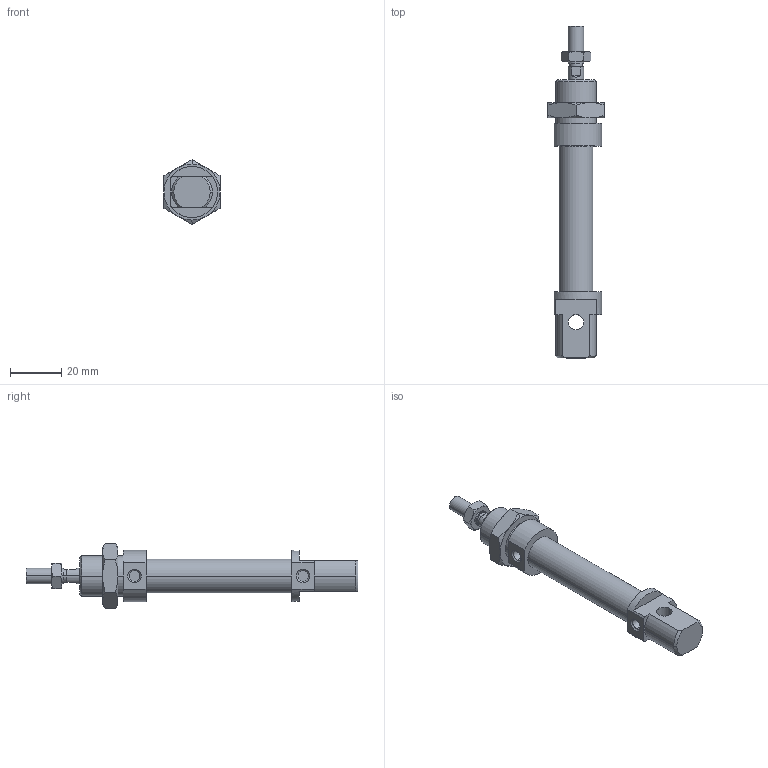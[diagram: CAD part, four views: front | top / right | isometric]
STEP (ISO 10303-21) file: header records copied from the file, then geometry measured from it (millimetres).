
FILE_DESCRIPTION((''),'2;1');
FILE_NAME('I:\DOC-EDP\Lib-3d\1200\CILINDRI\1280\1280_12_0025.stp','2003-04-07T14:48:27',('maffial1'),(''),'Autodesk Inventor (R) 6.0','Autodesk Inventor (R) 6.0','');
FILE_SCHEMA(('AUTOMOTIVE_DESIGN { 1 0 10303 214 1 1 1 1 }'));
Length unit declared in the file: millimetre
Products named in the file (5): 1280_12_0025; S1280_12_25; 1200_12_05; 1200_12_06; C1280_12_25
Assembly tree (4 placements, depth 2):
  1280_12_0025
    S1280_12_25
    1200_12_05
    1200_12_06
    C1280_12_25
Bounding box: 22 x 130 x 25.4 mm (x, y, z)
Volume: 20852.5 mm3; surface area: 10184.5 mm2
Topology: 4 solids, 4 shells, 121 faces, 268 edges, 162 vertices
Faces by surface type: cone 40, plane 39, cylinder 22, bspline 20
Entity records: 3653 total; most frequent: CARTESIAN_POINT 976, DIRECTION 556, ORIENTED_EDGE 536, EDGE_CURVE 268, AXIS2_PLACEMENT_3D 230, VERTEX_POINT 162, EDGE_LOOP 134, FACE_OUTER_BOUND 121
